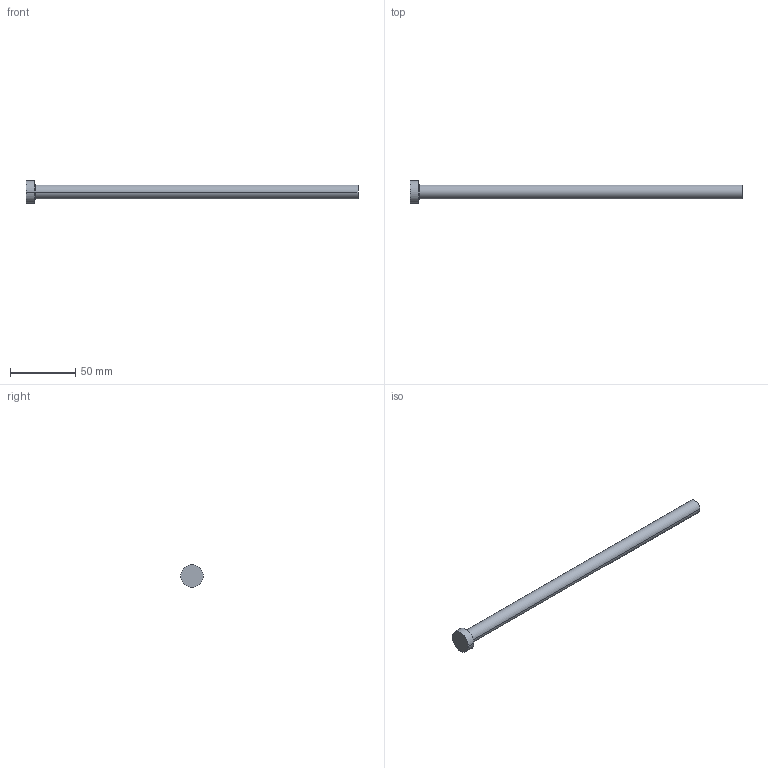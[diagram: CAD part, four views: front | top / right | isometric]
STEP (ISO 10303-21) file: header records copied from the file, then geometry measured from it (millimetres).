
FILE_DESCRIPTION (( 'STEP AP214' ), '1' );
FILE_NAME ('P28-10.STEP', '2020-03-12T10:13:35', ( '' ), ( '' ), 'SwSTEP 2.0', 'SolidWorks 2018', '' );
FILE_SCHEMA (( 'AUTOMOTIVE_DESIGN' ));
Length unit declared in the file: inch
Products named in the file (1): P28-10
Bounding box: 254 x 17.46 x 17.46 mm (x, y, z)
Volume: 23826.7 mm3; surface area: 9141.1 mm2
Topology: 1 solids, 1 shells, 13 faces, 24 edges, 14 vertices
Faces by surface type: cone 4, cylinder 4, plane 3, torus 2
Entity records: 366 total; most frequent: DIRECTION 68, CARTESIAN_POINT 52, ORIENTED_EDGE 48, AXIS2_PLACEMENT_3D 30, EDGE_CURVE 24, CIRCLE 16, VERTEX_POINT 14, EDGE_LOOP 14
